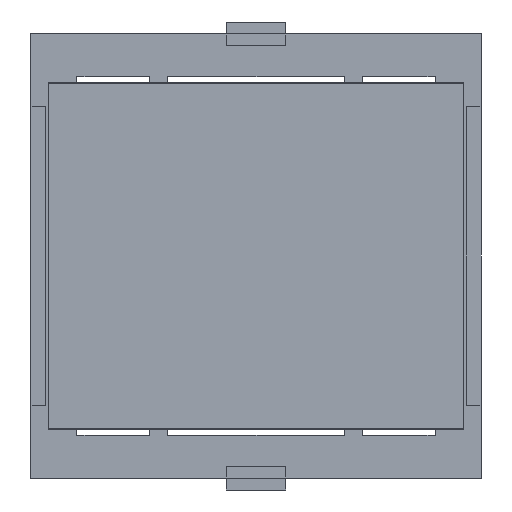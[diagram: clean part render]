
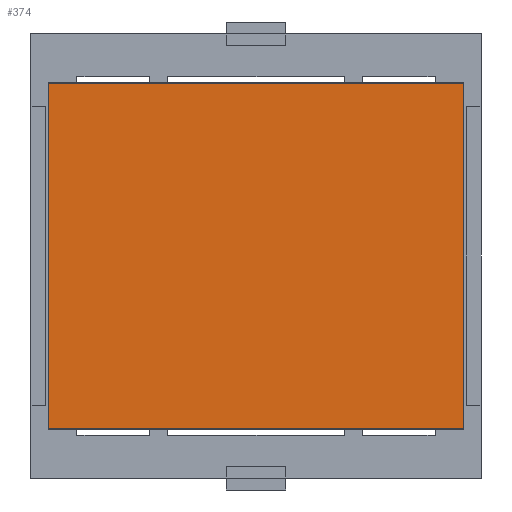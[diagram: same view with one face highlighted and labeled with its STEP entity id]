
A CAD part, front view. The second image highlights one B-rep face of the part: STEP entity #374.
In plain terms, the highlighted planar face has unit normal (0, -1, 0).
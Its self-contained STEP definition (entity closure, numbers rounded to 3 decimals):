
#224 = VECTOR ( 'NONE', #2575, 1000. ) ;
#227 = ORIENTED_EDGE ( 'NONE', *, *, #4777, .F. ) ;
#374 = ADVANCED_FACE ( 'NONE', ( #2785 ), #4924, .F. ) ;
#896 = LINE ( 'NONE', #5281, #224 ) ;
#1038 = CARTESIAN_POINT ( 'NONE',  ( -15.712, -18.701, 26.207 ) ) ;
#1203 = VERTEX_POINT ( 'NONE', #5265 ) ;
#1781 = VERTEX_POINT ( 'NONE', #4798 ) ;
#2324 = CARTESIAN_POINT ( 'NONE',  ( -15.712, -18.701, -2.749 ) ) ;
#2575 = DIRECTION ( 'NONE',  ( 0., 0., 1. ) ) ;
#2650 = CARTESIAN_POINT ( 'NONE',  ( 19.086, -18.701, 26.207 ) ) ;
#2785 = FACE_OUTER_BOUND ( 'NONE', #4244, .T. ) ;
#2816 = ORIENTED_EDGE ( 'NONE', *, *, #4347, .F. ) ;
#2988 = CARTESIAN_POINT ( 'NONE',  ( -15.712, -18.701, 26.207 ) ) ;
#3106 = VECTOR ( 'NONE', #4146, 1000. ) ;
#3206 = VERTEX_POINT ( 'NONE', #2650 ) ;
#3312 = LINE ( 'NONE', #2324, #4198 ) ;
#3406 = EDGE_CURVE ( 'NONE', #1781, #1203, #3312, .T. ) ;
#3549 = DIRECTION ( 'NONE',  ( 1., 0., 0. ) ) ;
#3574 = CARTESIAN_POINT ( 'NONE',  ( 19.086, -18.701, -2.749 ) ) ;
#4146 = DIRECTION ( 'NONE',  ( 0., 0., -1. ) ) ;
#4198 = VECTOR ( 'NONE', #4932, 1000. ) ;
#4244 = EDGE_LOOP ( 'NONE', ( #2816, #5521, #6599, #227 ) ) ;
#4347 = EDGE_CURVE ( 'NONE', #1203, #5233, #896, .T. ) ;
#4447 = LINE ( 'NONE', #6634, #5934 ) ;
#4635 = DIRECTION ( 'NONE',  ( 0., 0., 1. ) ) ;
#4777 = EDGE_CURVE ( 'NONE', #5233, #3206, #4447, .T. ) ;
#4798 = CARTESIAN_POINT ( 'NONE',  ( 19.086, -18.701, -2.749 ) ) ;
#4924 = PLANE ( 'NONE',  #6593 ) ;
#4932 = DIRECTION ( 'NONE',  ( -1., 0., 0. ) ) ;
#5074 = EDGE_CURVE ( 'NONE', #3206, #1781, #6888, .T. ) ;
#5233 = VERTEX_POINT ( 'NONE', #1038 ) ;
#5265 = CARTESIAN_POINT ( 'NONE',  ( -15.712, -18.701, -2.749 ) ) ;
#5281 = CARTESIAN_POINT ( 'NONE',  ( -15.712, -18.701, -2.749 ) ) ;
#5521 = ORIENTED_EDGE ( 'NONE', *, *, #3406, .F. ) ;
#5934 = VECTOR ( 'NONE', #3549, 1000. ) ;
#6593 = AXIS2_PLACEMENT_3D ( 'NONE', #2988, #6664, #4635 ) ;
#6599 = ORIENTED_EDGE ( 'NONE', *, *, #5074, .F. ) ;
#6634 = CARTESIAN_POINT ( 'NONE',  ( -15.712, -18.701, 26.207 ) ) ;
#6664 = DIRECTION ( 'NONE',  ( 0., 1., 0. ) ) ;
#6888 = LINE ( 'NONE', #3574, #3106 ) ;
